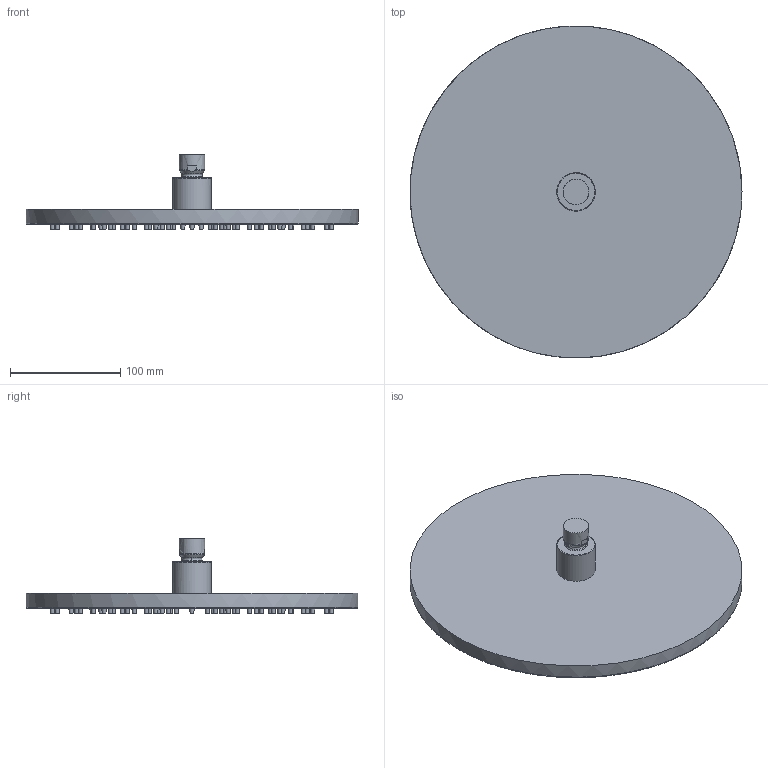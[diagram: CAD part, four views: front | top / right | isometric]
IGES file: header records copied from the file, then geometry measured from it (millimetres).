
Global section: file name: 75A013; native system: Autodesk Inventor 2017; preprocessor: unknown; author: PIZZERA; date: 20211004.165208; units: millimetre
Bounding box: 301 x 300.87 x 67.49 mm (x, y, z)
Volume: 1001067.4 mm3; surface area: 164530.1 mm2
Topology: 1 solids, 1 shells, 223 faces, 365 edges, 249 vertices
Faces by surface type: bspline 223
